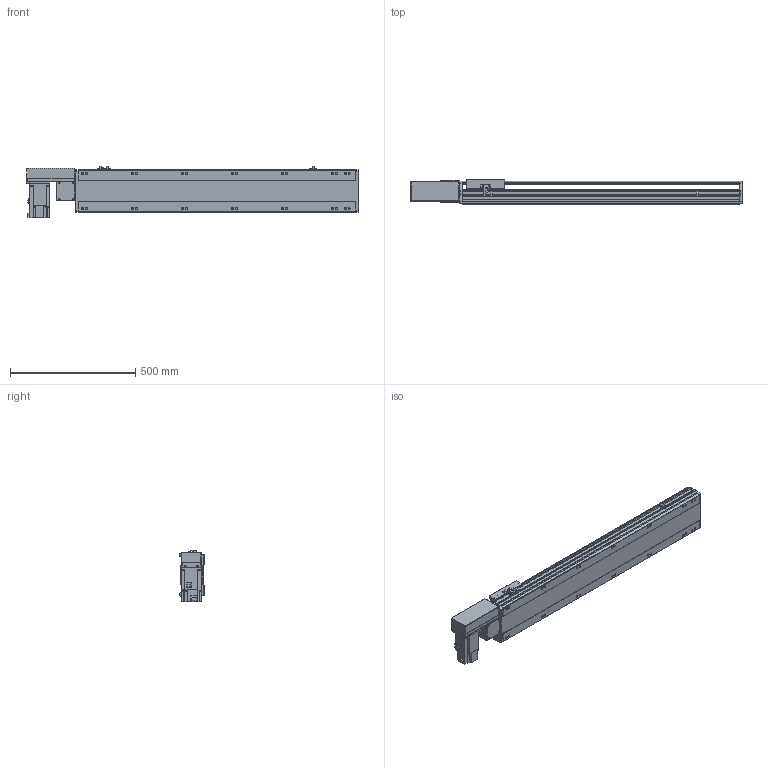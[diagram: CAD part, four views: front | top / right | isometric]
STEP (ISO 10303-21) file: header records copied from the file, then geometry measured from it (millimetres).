
FILE_DESCRIPTION(/* description */ ('STEP AP214'),/* implementation_level */ '2;1');
FILE_NAME(/* name */ 'PBS170-P40-S850-R-T75-C1-N(0)',/* time_stamp */ '2022-06-07T09:29:46+02:00',/* author */ ('License CC BY-ND 4.0'),/* organization */ ('CADENAS'),/* preprocessor_version */ 'ST-DEVELOPER v18.102',/* originating_system */ 'PARTsolutions',/* authorisation */ ' ');
FILE_SCHEMA (('AUTOMOTIVE_DESIGN {1 0 10303 214 3 1 1}'));
Length unit declared in the file: millimetre
Products named in the file (7): PBS170-P40-S850-R-T75-C1-N(0); PBS170_sensor; PBS170_plant; PBS170_sliser; T75-p1; PBS170T-R_motors; PBS170-S850()_body
Assembly tree (8 placements, depth 2):
  PBS170-P40-S850-R-T75-C1-N(0)
    PBS170_sensor  x3
    PBS170_plant
    PBS170_sliser
    T75-p1
    PBS170T-R_motors
    PBS170-S850()_body
Bounding box: 1328 x 97 x 205.3 mm (x, y, z)
Volume: 9918887 mm3; surface area: 1312294.1 mm2
Topology: 8 solids, 8 shells, 1066 faces, 2835 edges, 1848 vertices
Faces by surface type: plane 681, cylinder 331, cone 44, sphere 8, torus 2
Full cylindrical faces by diameter (mm): 3.242 x4, 4 x2, 4.4 x4, 4.5 x6, 4.917 x4, 6 x9, 6.647 x22, 7 x2, 7.5 x4, 8 x8, 8.5 x14, 10 x4, 10.5 x14, 11 x2, 30 x2, 40 x1, 70 x1
Entity records: 30660 total; most frequent: CARTESIAN_POINT 5601, DIRECTION 5230, ORIENTED_EDGE 4968, EDGE_CURVE 2484, AXIS2_PLACEMENT_3D 1807, VERTEX_POINT 1706, LINE 1616, VECTOR 1616
